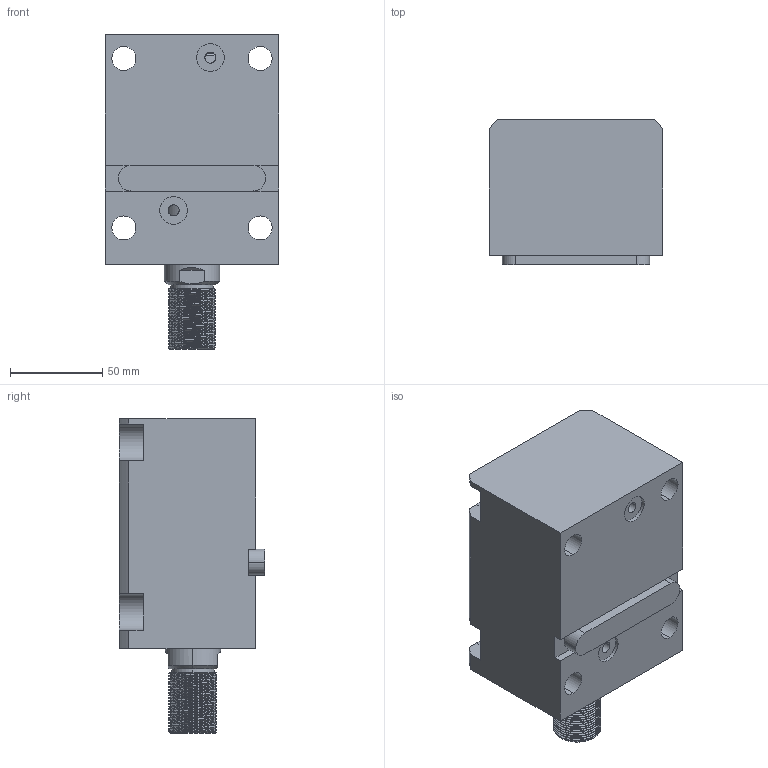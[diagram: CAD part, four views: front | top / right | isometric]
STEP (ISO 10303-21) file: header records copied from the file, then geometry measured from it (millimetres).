
FILE_DESCRIPTION (( 'STEP AP203' ), '1' );
FILE_NAME ('CHTB-LAM50-65W.STEP', '2018-05-23T10:48:50', ( '' ), ( '' ), 'SwSTEP 2.0', 'SolidWorks 2015', '' );
FILE_SCHEMA (( 'CONFIG_CONTROL_DESIGN' ));
Length unit declared in the file: millimetre
Products named in the file (4): CHTM-SDMA50QG; 掛极LAM50-65W; 活塞杆LAM50-65W; CHTB-LAM50-65W
Assembly tree (3 placements, depth 2):
  CHTB-LAM50-65W
    掛极LAM50-65W
    活塞杆LAM50-65W
    CHTM-SDMA50QG
Bounding box: 94 x 79 x 171 mm (x, y, z)
Volume: 758917.2 mm3; surface area: 124145.8 mm2
Topology: 3 solids, 3 shells, 234 faces, 652 edges, 436 vertices
Faces by surface type: cylinder 136, plane 53, bspline 16, torus 16, cone 13
Entity records: 14802 total; most frequent: CARTESIAN_POINT 8867, ORIENTED_EDGE 1296, DIRECTION 1023, EDGE_CURVE 648, VERTEX_POINT 436, AXIS2_PLACEMENT_3D 395, EDGE_LOOP 264, ADVANCED_FACE 234
